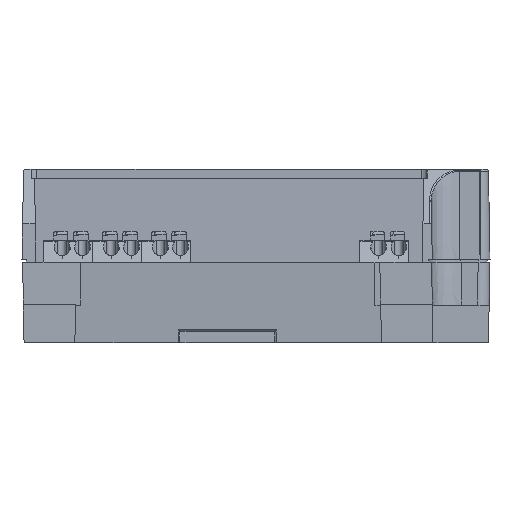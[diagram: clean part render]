
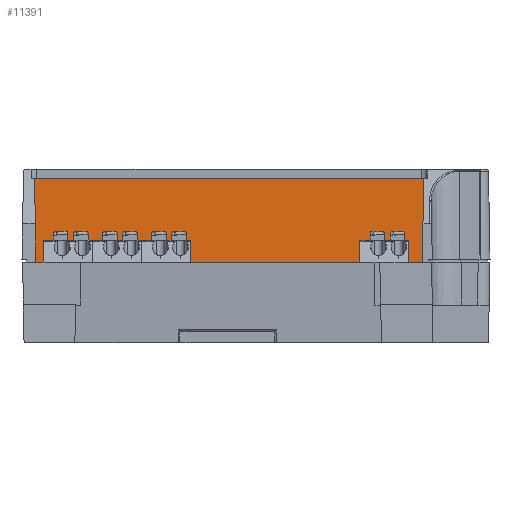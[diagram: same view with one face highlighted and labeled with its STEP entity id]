
A CAD part, front view. The second image highlights one B-rep face of the part: STEP entity #11391.
In plain terms, the highlighted planar face has unit normal (0, -1, 0.018).
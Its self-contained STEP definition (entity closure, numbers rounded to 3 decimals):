
#18 = LINE ( 'NONE', #14955, #13931 ) ;
#370 = LINE ( 'NONE', #19721, #4617 ) ;
#1124 = VERTEX_POINT ( 'NONE', #20744 ) ;
#1285 = CARTESIAN_POINT ( 'NONE',  ( 76.679, 22.781, 97.537 ) ) ;
#1289 = DIRECTION ( 'NONE',  ( 0., 1., -0.018 ) ) ;
#1540 = ORIENTED_EDGE ( 'NONE', *, *, #17140, .T. ) ;
#1962 = EDGE_CURVE ( 'NONE', #22785, #2974, #7375, .T. ) ;
#2006 = VECTOR ( 'NONE', #10471, 1000. ) ;
#2144 = ORIENTED_EDGE ( 'NONE', *, *, #7498, .F. ) ;
#2974 = VERTEX_POINT ( 'NONE', #22821 ) ;
#3023 = AXIS2_PLACEMENT_3D ( 'NONE', #4855, #1289, #13965 ) ;
#3165 = VERTEX_POINT ( 'NONE', #5382 ) ;
#3421 = LINE ( 'NONE', #9207, #8850 ) ;
#3706 = VECTOR ( 'NONE', #10165, 1000. ) ;
#4128 = LINE ( 'NONE', #13178, #22339 ) ;
#4260 = CARTESIAN_POINT ( 'NONE',  ( 8.772, 22.849, 101.274 ) ) ;
#4617 = VECTOR ( 'NONE', #21561, 1000. ) ;
#4799 = CARTESIAN_POINT ( 'NONE',  ( 76.344, 22.849, 101.274 ) ) ;
#4855 = CARTESIAN_POINT ( 'NONE',  ( 9.644, 22.449, 79.274 ) ) ;
#5192 = EDGE_CURVE ( 'NONE', #3165, #14643, #4128, .T. ) ;
#5382 = CARTESIAN_POINT ( 'NONE',  ( 8.837, 22.782, 97.556 ) ) ;
#5537 = CARTESIAN_POINT ( 'NONE',  ( 77.251, 22.781, 97.537 ) ) ;
#5996 = ORIENTED_EDGE ( 'NONE', *, *, #8478, .F. ) ;
#6591 = DIRECTION ( 'NONE',  ( 1., 0., 0. ) ) ;
#7375 = LINE ( 'NONE', #19506, #2006 ) ;
#7498 = EDGE_CURVE ( 'NONE', #8474, #15144, #370, .T. ) ;
#7507 = VERTEX_POINT ( 'NONE', #23374 ) ;
#8474 = VERTEX_POINT ( 'NONE', #5537 ) ;
#8478 = EDGE_CURVE ( 'NONE', #7507, #8474, #3421, .T. ) ;
#8508 = PLANE ( 'NONE',  #3023 ) ;
#8559 = LINE ( 'NONE', #15587, #3706 ) ;
#8678 = EDGE_CURVE ( 'NONE', #22785, #15144, #8559, .T. ) ;
#8850 = VECTOR ( 'NONE', #14651, 1000. ) ;
#9207 = CARTESIAN_POINT ( 'NONE',  ( 77.344, 22.879, 102.879 ) ) ;
#9336 = LINE ( 'NONE', #9927, #18387 ) ;
#9927 = CARTESIAN_POINT ( 'NONE',  ( 9.344, 22.849, 101.279 ) ) ;
#10165 = DIRECTION ( 'NONE',  ( 0.017, 0.018, 1. ) ) ;
#10471 = DIRECTION ( 'NONE',  ( -1., 0., 0. ) ) ;
#11391 = ADVANCED_FACE ( 'NONE', ( #15800 ), #8508, .F. ) ;
#12836 = VECTOR ( 'NONE', #6591, 1000. ) ;
#13133 = DIRECTION ( 'NONE',  ( 1., 0., 0. ) ) ;
#13178 = CARTESIAN_POINT ( 'NONE',  ( 8.748, 22.875, 102.66 ) ) ;
#13316 = CARTESIAN_POINT ( 'NONE',  ( 76.369, 22.458, 79.774 ) ) ;
#13931 = VECTOR ( 'NONE', #13133, 1000. ) ;
#13965 = DIRECTION ( 'NONE',  ( -1., 0., 0. ) ) ;
#14643 = VERTEX_POINT ( 'NONE', #4260 ) ;
#14651 = DIRECTION ( 'NONE',  ( -0.017, -0.018, -1. ) ) ;
#14955 = CARTESIAN_POINT ( 'NONE',  ( 8.744, 22.782, 97.556 ) ) ;
#14986 = DIRECTION ( 'NONE',  ( -0.017, 0.018, 1. ) ) ;
#15144 = VERTEX_POINT ( 'NONE', #1285 ) ;
#15370 = ORIENTED_EDGE ( 'NONE', *, *, #8678, .T. ) ;
#15587 = CARTESIAN_POINT ( 'NONE',  ( 76.744, 22.849, 101.279 ) ) ;
#15800 = FACE_OUTER_BOUND ( 'NONE', #22048, .T. ) ;
#16654 = ORIENTED_EDGE ( 'NONE', *, *, #1962, .F. ) ;
#16704 = ORIENTED_EDGE ( 'NONE', *, *, #23497, .F. ) ;
#17140 = EDGE_CURVE ( 'NONE', #3165, #1124, #18, .T. ) ;
#18387 = VECTOR ( 'NONE', #20788, 1000. ) ;
#19010 = EDGE_CURVE ( 'NONE', #1124, #2974, #9336, .T. ) ;
#19506 = CARTESIAN_POINT ( 'NONE',  ( 7.444, 22.458, 79.774 ) ) ;
#19721 = CARTESIAN_POINT ( 'NONE',  ( 77.344, 22.781, 97.537 ) ) ;
#19783 = ORIENTED_EDGE ( 'NONE', *, *, #5192, .F. ) ;
#20744 = CARTESIAN_POINT ( 'NONE',  ( 9.409, 22.782, 97.556 ) ) ;
#20788 = DIRECTION ( 'NONE',  ( 0.017, -0.018, -1. ) ) ;
#21561 = DIRECTION ( 'NONE',  ( -1., 0., 0. ) ) ;
#21696 = ORIENTED_EDGE ( 'NONE', *, *, #19010, .T. ) ;
#22048 = EDGE_LOOP ( 'NONE', ( #16654, #15370, #2144, #5996, #16704, #19783, #1540, #21696 ) ) ;
#22339 = VECTOR ( 'NONE', #14986, 1000. ) ;
#22529 = LINE ( 'NONE', #4799, #12836 ) ;
#22785 = VERTEX_POINT ( 'NONE', #13316 ) ;
#22821 = CARTESIAN_POINT ( 'NONE',  ( 9.72, 22.458, 79.774 ) ) ;
#23374 = CARTESIAN_POINT ( 'NONE',  ( 77.316, 22.849, 101.274 ) ) ;
#23497 = EDGE_CURVE ( 'NONE', #14643, #7507, #22529, .T. ) ;
